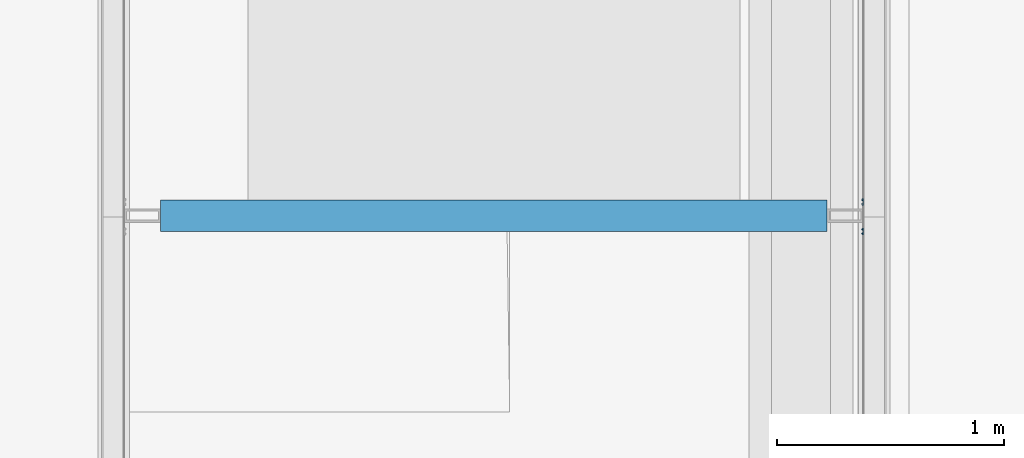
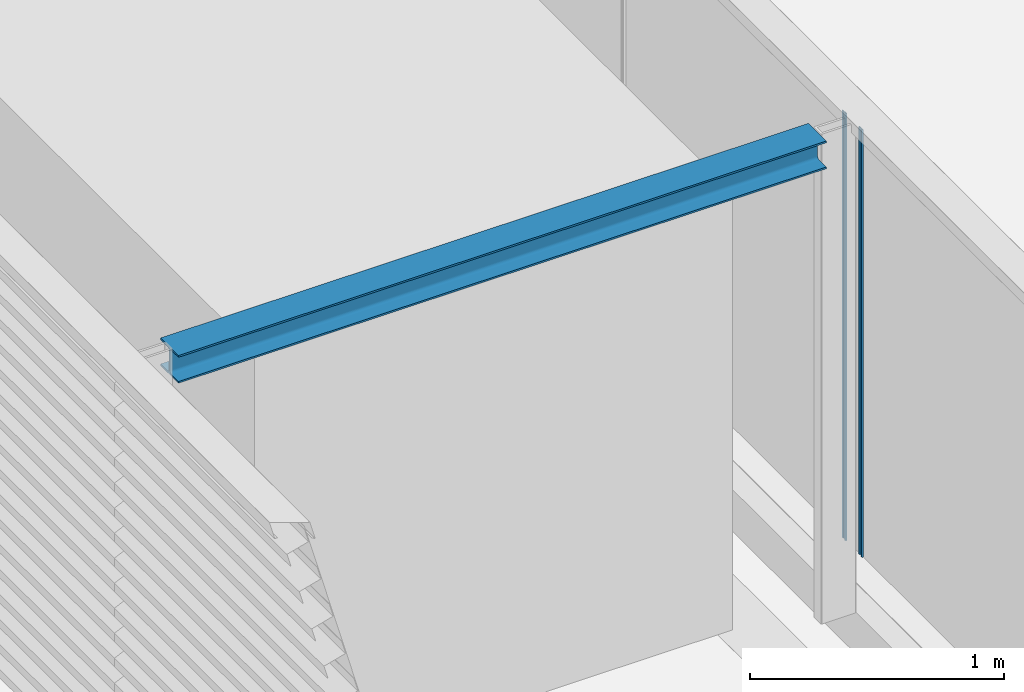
# One storey, part 13 of 32: 2 members, 1 beam, 2 elements without a shape of their own.
"""IFC2X3 building model written with IfcOpenShell, lengths in millimetres."""

from ifc_helpers import new_model, entity, si_unit, converted_unit, derived_unit, direction, frame, frame_2d, origin, place, context, subcontext, project, spatial, polyline, circle_curve, parameter, trimmed, segment, composite_curve, i_section, outline, extrude, source, transform, mapped, material, type_object, type_shapes, element, aggregate, save


model = new_model("IFC2X3")

# Units and contexts
model_context = context("Model", 3, precision=0.01, world=origin(), true_north=direction((6.123031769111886e-17, 1.0)))
body_context = subcontext(model_context, "Body", "Model", "MODEL_VIEW")
ifc_project = project(units=[si_unit("LENGTHUNIT", "METRE", prefix="MILLI"), si_unit("AREAUNIT", "SQUARE_METRE"), si_unit("VOLUMEUNIT", "CUBIC_METRE"), converted_unit("PLANEANGLEUNIT", "DEGREE", entity("IfcRatioMeasure", 0.017453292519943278), si_unit("PLANEANGLEUNIT", "RADIAN"), dimensions=[0, 0, 0, 0, 0, 0, 0]), si_unit("MASSUNIT", "GRAM", prefix="KILO"), derived_unit("MASSDENSITYUNIT", [(si_unit("MASSUNIT", "GRAM", prefix="KILO"), 1), (si_unit("LENGTHUNIT", "METRE"), -3)]), derived_unit("IONCONCENTRATIONUNIT", [(si_unit("MASSUNIT", "GRAM", prefix="KILO"), 1), (si_unit("LENGTHUNIT", "METRE"), -3)]), derived_unit("MOMENTOFINERTIAUNIT", [(si_unit("LENGTHUNIT", "METRE"), 4)]), si_unit("TIMEUNIT", "SECOND"), si_unit("FREQUENCYUNIT", "HERTZ"), si_unit("THERMODYNAMICTEMPERATUREUNIT", "DEGREE_CELSIUS"), derived_unit("THERMALTRANSMITTANCEUNIT", [(si_unit("MASSUNIT", "GRAM", prefix="KILO"), 1), (si_unit("THERMODYNAMICTEMPERATUREUNIT", "KELVIN"), -1), (si_unit("TIMEUNIT", "SECOND"), -3)]), derived_unit("THERMALCONDUCTANCEUNIT", [(si_unit("MASSUNIT", "GRAM", prefix="KILO"), 1), (si_unit("THERMODYNAMICTEMPERATUREUNIT", "KELVIN"), -1), (si_unit("TIMEUNIT", "SECOND"), -3), (si_unit("LENGTHUNIT", "METRE"), 1)]), derived_unit("VOLUMETRICFLOWRATEUNIT", [(si_unit("LENGTHUNIT", "METRE"), 3), (si_unit("TIMEUNIT", "SECOND"), -1)]), derived_unit("MASSFLOWRATEUNIT", [(si_unit("MASSUNIT", "GRAM", prefix="KILO"), 1), (si_unit("TIMEUNIT", "SECOND"), -1)]), derived_unit("ROTATIONALFREQUENCYUNIT", [(si_unit("TIMEUNIT", "SECOND"), -1)]), si_unit("ELECTRICCURRENTUNIT", "AMPERE"), si_unit("ELECTRICVOLTAGEUNIT", "VOLT"), si_unit("POWERUNIT", "WATT"), si_unit("FORCEUNIT", "NEWTON", prefix="KILO"), si_unit("ILLUMINANCEUNIT", "LUX"), si_unit("LUMINOUSFLUXUNIT", "LUMEN"), si_unit("LUMINOUSINTENSITYUNIT", "CANDELA"), derived_unit("USERDEFINED", [(si_unit("MASSUNIT", "GRAM", prefix="KILO"), -1), (si_unit("LENGTHUNIT", "METRE"), -2), (si_unit("TIMEUNIT", "SECOND"), 3), (si_unit("LUMINOUSFLUXUNIT", "LUMEN"), 1)]), derived_unit("USERDEFINED", [(si_unit("MASSUNIT", "GRAM", prefix="KILO"), 1), (si_unit("TIMEUNIT", "SECOND"), -3), (si_unit("LENGTHUNIT", "METRE"), 3), (si_unit("ELECTRICCURRENTUNIT", "AMPERE"), -2)]), derived_unit("SOUNDPOWERUNIT", [(si_unit("MASSUNIT", "GRAM", prefix="KILO"), 1), (si_unit("TIMEUNIT", "SECOND"), -3), (si_unit("LENGTHUNIT", "METRE"), 2)]), derived_unit("SOUNDPRESSUREUNIT", [(si_unit("MASSUNIT", "GRAM", prefix="KILO"), 1), (si_unit("LENGTHUNIT", "METRE"), -1), (si_unit("TIMEUNIT", "SECOND"), -2)]), derived_unit("LINEARVELOCITYUNIT", [(si_unit("LENGTHUNIT", "METRE"), 1), (si_unit("TIMEUNIT", "SECOND"), -1)]), si_unit("PRESSUREUNIT", "PASCAL"), derived_unit("USERDEFINED", [(si_unit("MASSUNIT", "GRAM", prefix="KILO"), 1), (si_unit("LENGTHUNIT", "METRE"), -2), (si_unit("TIMEUNIT", "SECOND"), -2)]), derived_unit("LINEARFORCEUNIT", [(si_unit("MASSUNIT", "GRAM", prefix="KILO"), 1), (si_unit("TIMEUNIT", "SECOND"), -2)]), derived_unit("PLANARFORCEUNIT", [(si_unit("MASSUNIT", "GRAM", prefix="KILO"), 1), (si_unit("LENGTHUNIT", "METRE"), -1), (si_unit("TIMEUNIT", "SECOND"), -2)]), derived_unit("SPECIFICHEATCAPACITYUNIT", [(si_unit("THERMODYNAMICTEMPERATUREUNIT", "KELVIN"), -1), (si_unit("LENGTHUNIT", "METRE"), 2), (si_unit("TIMEUNIT", "SECOND"), -2)]), derived_unit("HEATINGVALUEUNIT", [(si_unit("LENGTHUNIT", "METRE"), 2), (si_unit("TIMEUNIT", "SECOND"), -2)]), derived_unit("VAPORPERMEABILITYUNIT", [(si_unit("LENGTHUNIT", "METRE"), -1), (si_unit("TIMEUNIT", "SECOND"), 1)]), derived_unit("DYNAMICVISCOSITYUNIT", [(si_unit("MASSUNIT", "GRAM", prefix="KILO"), 1), (si_unit("TIMEUNIT", "SECOND"), -1), (si_unit("LENGTHUNIT", "METRE"), -1)]), derived_unit("THERMALEXPANSIONCOEFFICIENTUNIT", [(si_unit("THERMODYNAMICTEMPERATUREUNIT", "KELVIN"), -1)]), derived_unit("MODULUSOFELASTICITYUNIT", [(si_unit("MASSUNIT", "GRAM", prefix="KILO"), 1), (si_unit("LENGTHUNIT", "METRE"), -1), (si_unit("TIMEUNIT", "SECOND"), -2)]), derived_unit("ISOTHERMALMOISTURECAPACITYUNIT", [(si_unit("LENGTHUNIT", "METRE"), 3), (si_unit("MASSUNIT", "GRAM", prefix="KILO"), -1)]), derived_unit("MOISTUREDIFFUSIVITYUNIT", [(si_unit("TIMEUNIT", "SECOND"), -1), (si_unit("LENGTHUNIT", "METRE"), 2)])], contexts=[model_context])

# Site, building, storey
site_placement = place(None, frame((0.0, 300.0, 0.0)))
site = spatial("IfcSite", under=ifc_project, at=site_placement, Name="<Kadastrale nummers>", CompositionType="ELEMENT")
building_placement = place(site_placement, origin())
building = spatial("IfcBuilding", under=site, at=building_placement, CompositionType="ELEMENT")
storey_placement = place(building_placement, frame((0.0, 0.0, 7150.000035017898)))
storey = spatial("IfcBuildingStorey", under=building, at=storey_placement, Name="02 tweede verdieping", CompositionType="ELEMENT", Elevation=7150.000035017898)

# Beam
ifc_material_1 = material(Name="h2_staal S235")
beam_type = type_object("IfcBeamType", Name="NLRS_28_SF_LIB_balk hea -SH_gen_ISR:balk gen hea140", PredefinedType="BEAM")
beam_placement = place(storey_placement, frame((39706.99978599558, 39000.0, 2409.9999649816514)))
element("IfcBeam", 1, at=beam_placement, inside=storey, type_object=beam_type, material=ifc_material_1, Name="NLRS_28_SF_LIB_balk hea -SH_gen_ISR:balk gen hea140", ObjectType="NLRS_28_SF_LIB_balk hea -SH_gen_ISR:balk gen hea140", context=body_context, shape_type="SweptSolid", body=[
    extrude(i_section(OverallWidth=139.99999999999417, OverallDepth=133.00000000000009, WebThickness=5.4999999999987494, FlangeThickness=8.500000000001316, FilletRadius=12.000000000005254, at=frame_2d((-1.0800249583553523e-12, 6.494360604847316e-12), x_axis=(0.0, 1.0))), frame((-1131.9997859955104, 0.0, 66.49999999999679), z_axis=(1.0, 0.0, 0.0), x_axis=(0.0, 0.0, -1.0)), (0.0, 0.0, 1.0), 2939.9999999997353),
])

# Curtain wall, member
curtain_wall_type = type_object("IfcCurtainWallType", Name="Curtain Wall:NLRS_21_CWA_lamellenwand Linius - L.120 met LD.0065_Storax", PredefinedType="NOTDEFINED")
curtain_wall_1_placement = place(storey_placement, frame((0.0, 0.0, -7150.000035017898)))
curtain_wall_1 = element("IfcCurtainWall", 2, at=curtain_wall_1_placement, inside=storey, type_object=curtain_wall_type, Name="Curtain Wall:NLRS_21_CWA_lamellenwand Linius - L.120 met LD.0065_Storax", ObjectType="Curtain Wall:NLRS_21_CWA_lamellenwand Linius - L.120 met LD.0065_Storax")
ifc_material_2 = material(Name="STAAL_RAL 7006")
member_type_1 = type_object("IfcMemberType", Name="Rectangular Mullion:NLRS_21_CWM_drager LD.0065 - rechts_Storax", PredefinedType="MULLION", material=ifc_material_2)
shared_shape_1 = source(origin(), body_context, "Body", "SweptSolid", [
    extrude(outline(composite_curve([segment(polyline([(-3.696834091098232, -15.00102402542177), (1.423463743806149, -15.00102402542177)]), True, "CONTINUOUS"), segment(trimmed(circle_curve(frame_2d((1.423463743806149, -14.001024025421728), x_axis=(0.0, -1.0)), 0.9999999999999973), [parameter(0.0)], [parameter(241.3401018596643)], True, "PARAMETER"), True, "CONTINUOUS"), segment(polyline([(0.5459816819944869, -13.521414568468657), (-2.1968340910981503, -13.521414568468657)]), True, "CONTINUOUS"), segment(polyline([(-2.1968340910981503, -13.521414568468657), (-2.1968340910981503, -9.648596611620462)]), True, "CONTINUOUS"), segment(polyline([(-2.1968340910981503, -9.648596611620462), (2.8031659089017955, -9.648596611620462)]), True, "CONTINUOUS"), segment(polyline([(2.8031659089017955, -9.648596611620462), (2.8031659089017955, -7.88796411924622)]), True, "CONTINUOUS"), segment(polyline([(2.8031659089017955, -7.88796411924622), (1.6031201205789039, -7.88796411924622)]), True, "CONTINUOUS"), segment(polyline([(1.6031201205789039, -7.88796411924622), (1.6031201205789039, -6.348596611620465)]), True, "CONTINUOUS"), segment(polyline([(1.6031201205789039, -6.348596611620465), (-0.24734056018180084, -6.348596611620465)]), True, "CONTINUOUS"), segment(polyline([(-0.24734056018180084, -6.348596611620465), (-0.24734056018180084, -7.88796411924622)]), True, "CONTINUOUS"), segment(polyline([(-0.24734056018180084, -7.88796411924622), (-2.1968340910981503, -7.88796411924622)]), True, "CONTINUOUS"), segment(polyline([(-2.1968340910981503, -7.88796411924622), (-2.1968340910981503, 7.885916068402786)]), True, "CONTINUOUS"), segment(polyline([(-2.1968340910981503, 7.885916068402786), (-0.24734056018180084, 7.885916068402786)]), True, "CONTINUOUS"), segment(polyline([(-0.24734056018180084, 7.885916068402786), (-0.24734056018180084, 6.358836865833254)]), True, "CONTINUOUS"), segment(polyline([(-0.24734056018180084, 6.358836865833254), (1.6031201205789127, 6.358836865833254)]), True, "CONTINUOUS"), segment(polyline([(1.6031201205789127, 6.358836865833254), (1.6031201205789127, 7.885916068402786)]), True, "CONTINUOUS"), segment(polyline([(1.6031201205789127, 7.885916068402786), (2.8031659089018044, 7.885916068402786)]), True, "CONTINUOUS"), segment(polyline([(2.8031659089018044, 7.885916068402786), (2.8031659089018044, 9.646548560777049)]), True, "CONTINUOUS"), segment(polyline([(2.8031659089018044, 9.646548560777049), (-2.196834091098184, 9.646548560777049)]), True, "CONTINUOUS"), segment(polyline([(-2.196834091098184, 9.646548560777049), (-2.196834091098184, 13.519366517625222)]), True, "CONTINUOUS"), segment(polyline([(-2.196834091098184, 13.519366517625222), (0.5459816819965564, 13.519366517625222)]), True, "CONTINUOUS"), segment(trimmed(circle_curve(frame_2d((1.4234637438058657, 13.99897597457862), x_axis=(-0.8774820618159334, -0.47960945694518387)), 1.0000000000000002), [parameter(0.0)], [parameter(241.34010186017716)], True, "PARAMETER"), True, "CONTINUOUS"), segment(polyline([(1.4234637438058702, 14.998975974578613), (-3.696834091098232, 14.998975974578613)]), True, "CONTINUOUS"), segment(polyline([(-3.696834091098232, 14.998975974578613), (-3.696834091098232, -15.00102402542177)]), True, "CONTINUOUS")], self_intersect=False)), frame((-64.99897597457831, -4.696834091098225, -2049.999964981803), z_axis=(0.0, 0.0, 1.0), x_axis=(0.0, -1.0, 0.0)), (0.0, 0.0, 1.0), 2049.9999649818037),
])
type_shapes(member_type_1, [shared_shape_1])
member_1_placement = place(curtain_wall_1_placement, frame((41676.0, 38995.0, 9700.0), z_axis=(0.0, 0.0, 1.0), x_axis=(0.0, -1.0, 0.0)))
member_1 = element("IfcMember", 3, at=member_1_placement, type_object=member_type_1, material=ifc_material_2, Name="Rectangular Mullion:NLRS_21_CWM_drager LD.0065 - rechts_Storax", ObjectType="Rectangular Mullion:NLRS_21_CWM_drager LD.0065 - rechts_Storax", context=body_context, shape_type="MappedRepresentation", body=[
    mapped(shared_shape_1, transform((0.0, 0.0, 0.0), scale=1.0)),
])
aggregate(curtain_wall_1, [member_1])

curtain_wall_2_placement = place(storey_placement, frame((0.0, 0.0, -7150.000035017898)))
curtain_wall_2 = element("IfcCurtainWall", 4, at=curtain_wall_2_placement, inside=storey, type_object=curtain_wall_type, Name="Curtain Wall:NLRS_21_CWA_lamellenwand Linius - L.120 met LD.0065_Storax", ObjectType="Curtain Wall:NLRS_21_CWA_lamellenwand Linius - L.120 met LD.0065_Storax")
member_type_2 = type_object("IfcMemberType", Name="Rectangular Mullion:NLRS_21_CWM_drager LD.0065 - rechts_Storax", PredefinedType="MULLION", material=ifc_material_2)
shared_shape_2 = source(origin(), body_context, "Body", "SweptSolid", [
    extrude(outline(composite_curve([segment(polyline([(-1.4234637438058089, -15.001024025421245), (3.696834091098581, -15.001024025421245)]), True, "CONTINUOUS"), segment(polyline([(3.696834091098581, -15.001024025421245), (3.696834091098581, 14.998975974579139)]), True, "CONTINUOUS"), segment(polyline([(3.696834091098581, 14.998975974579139), (-1.423463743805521, 14.998975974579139)]), True, "CONTINUOUS"), segment(trimmed(circle_curve(frame_2d((-1.4234637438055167, 13.998975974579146), x_axis=(0.0, 1.0)), 1.0000000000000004), [parameter(0.0)], [parameter(241.34010185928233)], True, "PARAMETER"), True, "CONTINUOUS"), segment(polyline([(-0.5459816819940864, 13.519366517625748), (2.19683409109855, 13.519366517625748)]), True, "CONTINUOUS"), segment(polyline([(2.19683409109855, 13.519366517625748), (2.19683409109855, 9.646548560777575)]), True, "CONTINUOUS"), segment(polyline([(2.19683409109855, 9.646548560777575), (-2.8031659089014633, 9.646548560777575)]), True, "CONTINUOUS"), segment(polyline([(-2.8031659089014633, 9.646548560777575), (-2.8031659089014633, 7.885916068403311)]), True, "CONTINUOUS"), segment(polyline([(-2.8031659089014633, 7.885916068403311), (-1.6031201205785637, 7.885916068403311)]), True, "CONTINUOUS"), segment(polyline([(-1.6031201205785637, 7.885916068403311), (-1.6031201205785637, 6.35883686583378)]), True, "CONTINUOUS"), segment(polyline([(-1.6031201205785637, 6.35883686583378), (0.24734056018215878, 6.35883686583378)]), True, "CONTINUOUS"), segment(polyline([(0.24734056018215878, 6.35883686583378), (0.24734056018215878, 7.885916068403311)]), True, "CONTINUOUS"), segment(polyline([(0.24734056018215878, 7.885916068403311), (2.1968340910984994, 7.885916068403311)]), True, "CONTINUOUS"), segment(polyline([(2.1968340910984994, 7.885916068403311), (2.1968340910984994, -7.887964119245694)]), True, "CONTINUOUS"), segment(polyline([(2.1968340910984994, -7.887964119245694), (0.24734056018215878, -7.887964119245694)]), True, "CONTINUOUS"), segment(polyline([(0.24734056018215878, -7.887964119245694), (0.24734056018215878, -6.348596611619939)]), True, "CONTINUOUS"), segment(polyline([(0.24734056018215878, -6.348596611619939), (-1.6031201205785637, -6.348596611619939)]), True, "CONTINUOUS"), segment(polyline([(-1.6031201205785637, -6.348596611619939), (-1.6031201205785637, -7.887964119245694)]), True, "CONTINUOUS"), segment(polyline([(-1.6031201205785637, -7.887964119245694), (-2.8031659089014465, -7.887964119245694)]), True, "CONTINUOUS"), segment(polyline([(-2.8031659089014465, -7.887964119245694), (-2.8031659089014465, -9.648596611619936)]), True, "CONTINUOUS"), segment(polyline([(-2.8031659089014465, -9.648596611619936), (2.1968340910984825, -9.648596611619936)]), True, "CONTINUOUS"), segment(polyline([(2.1968340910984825, -9.648596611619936), (2.1968340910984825, -13.521414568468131)]), True, "CONTINUOUS"), segment(polyline([(2.1968340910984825, -13.521414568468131), (-0.545981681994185, -13.521414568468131)]), True, "CONTINUOUS"), segment(trimmed(circle_curve(frame_2d((-1.423463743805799, -14.001024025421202), x_axis=(0.8774820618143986, 0.4796094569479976)), 0.9999999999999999), [parameter(0.0)], [parameter(241.34010185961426)], True, "PARAMETER"), True, "CONTINUOUS")], self_intersect=False)), frame((-64.99897597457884, 4.696834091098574, -2049.999964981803), z_axis=(0.0, 0.0, 1.0), x_axis=(0.0, -1.0, 0.0)), (0.0, 0.0, 1.0), 2049.9999649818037),
])
type_shapes(member_type_2, [shared_shape_2])
member_2_placement = place(curtain_wall_2_placement, frame((41676.0, 38995.0, 9700.0), z_axis=(0.0, 0.0, 1.0), x_axis=(0.0, 1.0, 0.0)))
member_2 = element("IfcMember", 5, at=member_2_placement, type_object=member_type_2, material=ifc_material_2, Name="Rectangular Mullion:NLRS_21_CWM_drager LD.0065 - rechts_Storax", ObjectType="Rectangular Mullion:NLRS_21_CWM_drager LD.0065 - rechts_Storax", context=body_context, shape_type="MappedRepresentation", body=[
    mapped(shared_shape_2, transform((0.0, 0.0, 0.0), scale=1.0)),
])
aggregate(curtain_wall_2, [member_2])

save(model, "model.ifc")
